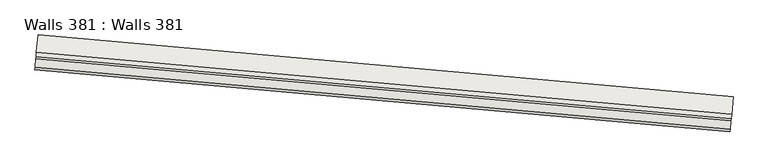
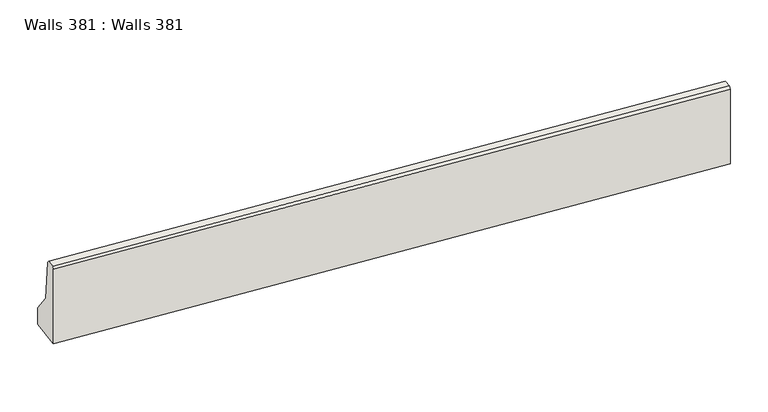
"""IFC4 building model written with IfcOpenShell, lengths in millimetres: wall geometry, Walls 381 : Walls 381."""

import ifcopenshell
import ifcopenshell.guid

model = None  # the IFC model being written
_history = None  # IfcOwnerHistory: only IFC2X3 demands one
_inside = {}  # id of a spatial element -> (the spatial element, [elements in it])
_under = {}  # id of a project, library or spatial element -> (it, [spatial elements below it])
_declared = {}  # id of a project -> (the project, [libraries it declares])
_typed = {}  # id of a type object -> (the type object, [elements of that type])
_made_of = {}  # id of a material, layer set ... -> (it, [elements and type objects made of it])


def new_model(schema):
    """Start an empty IFC model of exactly this schema.

    Asked for "IFC4X3", IfcOpenShell would pick the latest addendum, in which some entities
    have other attributes; the version numbers below select the first issue.
    IFC2X3 requires an IfcOwnerHistory on every rooted entity: one is made here for all.
    """
    global model, _history
    if schema == "IFC4X3":
        model = ifcopenshell.file(schema_version=(4, 3, 0, 0))
    else:
        model = ifcopenshell.file(schema=schema)
    _inside.clear()
    _under.clear()
    _declared.clear()
    _typed.clear()
    _made_of.clear()
    _history = None
    if model.schema == "IFC2X3":
        org = make("IfcOrganization", Name="unknown")
        user = make(
            "IfcPersonAndOrganization",
            ThePerson=make("IfcPerson", FamilyName="unknown"),
            TheOrganization=org,
        )
        app = make(
            "IfcApplication",
            ApplicationDeveloper=org,
            Version="unknown",
            ApplicationFullName="unknown",
            ApplicationIdentifier="unknown",
        )
        _history = make(
            "IfcOwnerHistory",
            OwningUser=user,
            OwningApplication=app,
            ChangeAction="ADDED",
            CreationDate=0,
        )
    return model


def make(cls, **values):
    """One entity of the class cls with the attributes given. An attribute that is None is left unset."""
    return model.create_entity(
        cls, **{name: value for name, value in values.items() if value is not None}
    )


def rooted(cls, **values):
    """An entity with a GlobalId (a new one), such as an element, a storey or a relation."""
    return make(cls, GlobalId=ifcopenshell.guid.new(), OwnerHistory=_history, **values)


def si_unit(unit_type, name, prefix=None):
    """IfcSIUnit, for example si_unit("LENGTHUNIT", "METRE", prefix="MILLI")."""
    return make("IfcSIUnit", UnitType=unit_type, Prefix=prefix, Name=name)


def assignment(units):
    """IfcUnitAssignment: the units of a project."""
    return None if units is None else make("IfcUnitAssignment", Units=units)


def point(xyz):
    """IfcCartesianPoint."""
    return None if xyz is None else make("IfcCartesianPoint", Coordinates=xyz)


def direction(xyz):
    """IfcDirection."""
    return None if xyz is None else make("IfcDirection", DirectionRatios=xyz)


def frame(location, z_axis=None, x_axis=None):
    """IfcAxis2Placement3D, a coordinate frame: its origin and axes. An axis left out is left unset."""
    return make(
        "IfcAxis2Placement3D",
        Location=point(location),
        Axis=direction(z_axis),
        RefDirection=direction(x_axis),
    )


def origin():
    """The frame at (0, 0, 0) with its axes left unset."""
    return frame((0.0, 0.0, 0.0))


def place(relative_to, where):
    """IfcLocalPlacement: puts the frame where relative to a parent placement (None: the world)."""
    return make(
        "IfcLocalPlacement", PlacementRelTo=relative_to, RelativePlacement=where
    )


def context(
    kind, dimensions, precision=None, world=None, true_north=None, identifier=None
):
    """IfcGeometricRepresentationContext, for example the 3D "Model" context."""
    return make(
        "IfcGeometricRepresentationContext",
        ContextIdentifier=identifier,
        ContextType=kind,
        CoordinateSpaceDimension=dimensions,
        Precision=precision,
        WorldCoordinateSystem=world,
        TrueNorth=true_north,
    )


def project(units=None, contexts=None):
    """IfcProject with its units and contexts."""
    return rooted(
        "IfcProject",
        Name="project",
        RepresentationContexts=contexts,
        UnitsInContext=assignment(units),
    )


def spatial(cls, under=None, at=None, **own):
    """A site, building, storey or space (cls), placed at a placement, below another one or the project."""
    s = rooted(cls, ObjectPlacement=at, **own)
    if under is not None:
        _under.setdefault(under.id(), (under, []))[1].append(s)
    return s


def polyline(points):
    """IfcPolyline through the points."""
    return make("IfcPolyline", Points=[point(p) for p in points])


def outline(outer, holes=None, kind="AREA"):
    """IfcArbitraryClosedProfileDef: a profile drawn as a closed curve; with holes, ...WithVoids."""
    if holes is None:
        return make("IfcArbitraryClosedProfileDef", ProfileType=kind, OuterCurve=outer)
    return make(
        "IfcArbitraryProfileDefWithVoids",
        ProfileType=kind,
        OuterCurve=outer,
        InnerCurves=holes,
    )


def extrude(swept, where, along, depth):
    """IfcExtrudedAreaSolid: the profile swept, set in the frame where, extruded along a direction by depth."""
    return make(
        "IfcExtrudedAreaSolid",
        SweptArea=swept,
        Position=where,
        ExtrudedDirection=direction(along),
        Depth=depth,
    )


def shape(context_of_items, identifier, shape_type, items):
    """IfcShapeRepresentation: the items that make up one representation, for example the "Body"."""
    return make(
        "IfcShapeRepresentation",
        ContextOfItems=context_of_items,
        RepresentationIdentifier=identifier,
        RepresentationType=shape_type,
        Items=items,
    )


def source(mapping_origin, context_of_items, identifier, shape_type, items):
    """IfcRepresentationMap: a shape defined once, which mapped items show again and again."""
    return make(
        "IfcRepresentationMap",
        MappingOrigin=mapping_origin,
        MappedRepresentation=shape(context_of_items, identifier, shape_type, items),
    )


def transform(
    local_origin,
    x_axis=None,
    y_axis=None,
    z_axis=None,
    scale=None,
    scale2=None,
    scale3=None,
    uniform=True,
):
    """IfcCartesianTransformationOperator3D, or its non-uniform kind. x_axis, y_axis, z_axis: its Axis1, 2, 3."""
    if uniform:
        return make(
            "IfcCartesianTransformationOperator3D",
            Axis1=direction(x_axis),
            Axis2=direction(y_axis),
            LocalOrigin=point(local_origin),
            Scale=scale,
            Axis3=direction(z_axis),
        )
    return make(
        "IfcCartesianTransformationOperator3DnonUniform",
        Axis1=direction(x_axis),
        Axis2=direction(y_axis),
        LocalOrigin=point(local_origin),
        Scale=scale,
        Axis3=direction(z_axis),
        Scale2=scale2,
        Scale3=scale3,
    )


def mapped(mapping_source, mapping_target):
    """IfcMappedItem: shows the shape of a source again, moved by a transform."""
    return make(
        "IfcMappedItem", MappingSource=mapping_source, MappingTarget=mapping_target
    )


def made_of(thing, what):
    """Note that an element or type object is made of a material, layer set ...; save() writes the relation."""
    if what is not None:
        _made_of.setdefault(what.id(), (what, []))[1].append(thing)
    return thing


def element(
    cls,
    number,
    at=None,
    inside=None,
    cuts=None,
    type_object=None,
    material=None,
    context=None,
    identifier="Body",
    shape_type=None,
    held_by="IfcProductDefinitionShape",
    body=None,
    shapes=None,
    **own,
):
    """One element of the class cls, such as IfcWall. Its Tag is "e" and its number.

    at: its placement. inside: the storey or other place that contains it. cuts: it is an
    opening in that element (IfcRelVoidsElement). A single representation is given by context,
    identifier, shape_type and body (its items); several are given by shapes. held_by: the class
    of the entity that holds the representations. save() writes the other relations.
    """
    e = rooted(cls, Tag="e%d" % number, ObjectPlacement=at, **own)
    if body is not None:
        shapes = [shape(context, identifier, shape_type, body)]
    if shapes is not None:
        e.Representation = make(held_by, Representations=shapes)
    if inside is not None:
        _inside.setdefault(inside.id(), (inside, []))[1].append(e)
    if cuts is not None:
        rooted(
            "IfcRelVoidsElement", RelatingBuildingElement=cuts, RelatedOpeningElement=e
        )
    if type_object is not None:
        _typed.setdefault(type_object.id(), (type_object, []))[1].append(e)
    return made_of(e, material)


def aggregate(whole, parts):
    """IfcRelAggregates: a whole, such as a stair, and the parts it consists of."""
    return rooted("IfcRelAggregates", RelatingObject=whole, RelatedObjects=parts)


def save(model, path):
    """Write the relations noted so far, then the file.

    IfcRelAggregates (storeys below a building ...), IfcRelContainedInSpatialStructure (elements
    in a storey), IfcRelDefinesByType, IfcRelAssociatesMaterial and IfcRelDeclares: one each for
    every whole, place, type object, material and project.
    """
    for whole, parts in _under.values():
        aggregate(whole, parts)
    for where, things in _inside.values():
        rooted(
            "IfcRelContainedInSpatialStructure",
            RelatedElements=things,
            RelatingStructure=where,
        )
    for kind, things in _typed.values():
        rooted("IfcRelDefinesByType", RelatedObjects=things, RelatingType=kind)
    for what, things in _made_of.values():
        rooted("IfcRelAssociatesMaterial", RelatedObjects=things, RelatingMaterial=what)
    for by, libraries in _declared.values():
        rooted("IfcRelDeclares", RelatingContext=by, RelatedDefinitions=libraries)
    model.write(path)


def walls_381_walls_381_15b92f77(model_context):
    return source(origin(), model_context, "Body", "SweptSolid", [
        extrude(outline(polyline([(637680.0, 400.0), (637930.0, 200.0), (638435.0, 150.0), (638460.0, 125.0), (638460.0, 25.0), (638435.0, 0.0), (637460.0, 0.0), (637460.0, 400.0), (637680.0, 400.0)])), frame((-610921.6055561, -424654.246835, 0.0), z_axis=(-0.9960550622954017, 0.08873732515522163, 0.0), x_axis=(0.0, 0.0, 1.0)), (0.0, 0.0, 1.0), 8000.0000001),
    ])


if __name__ == "__main__":
    model = new_model("IFC4")
    model_context = context("Model", 3, world=origin())
    ifc_project = project(units=[si_unit("LENGTHUNIT", "METRE", prefix="MILLI")], contexts=[model_context])
    site = spatial("IfcSite", under=ifc_project)
    building = spatial("IfcBuilding", under=site)
    placement = place(None, origin())
    walls_381_walls_381_shape = walls_381_walls_381_15b92f77(model_context)
    element("IfcWall", 1, ObjectType="Walls 381 : Walls 381", at=placement, inside=building, context=model_context, shape_type="MappedRepresentation", body=[
        mapped(walls_381_walls_381_shape, transform((0.0, 0.0, 0.0), x_axis=(1.0, 0.0, 0.0), y_axis=(0.0, 1.0, 0.0), z_axis=(0.0, 0.0, 1.0))),
    ])
    save(model, "model.ifc")
